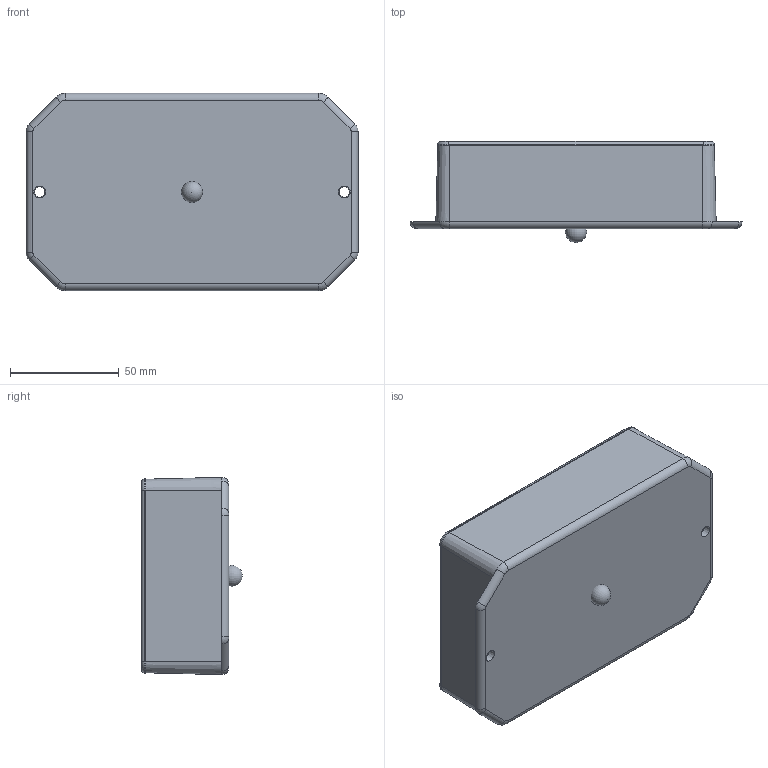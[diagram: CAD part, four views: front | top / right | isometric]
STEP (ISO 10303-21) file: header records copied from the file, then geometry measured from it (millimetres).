
FILE_DESCRIPTION (( 'STEP AP214' ), '1' );
FILE_NAME ('LP-55FMB_ASS''Y.STEP', '2012-05-23T12:32:20', ( 'Designer2010' ), ( '' ), 'SwSTEP 2.0', 'SolidWorks 2012', '' );
FILE_SCHEMA (( 'AUTOMOTIVE_DESIGN' ));
Length unit declared in the file: inch
Products named in the file (5): LP-55-PCB; SCREWS-LP-BR_SCREWS-LP-BR; LP-55C_LP-55C; LP-55B_LP-55BFMB; LP-55FMB_ASS''Y
Assembly tree (7 placements, depth 2):
  LP-55FMB_ASS''Y
    LP-55B_LP-55BFMB
    LP-55C_LP-55C
    SCREWS-LP-BR_SCREWS-LP-BR  x4
    LP-55-PCB
Bounding box: 152.55 x 46.38 x 90.67 mm (x, y, z)
Volume: 112934.4 mm3; surface area: 106274.1 mm2
Topology: 7 solids, 7 shells, 351 faces, 894 edges, 585 vertices
Faces by surface type: plane 167, cylinder 88, cone 54, torus 21, bspline 16, sphere 5
Full cylindrical faces by diameter (mm): 1.549 x36, 2.921 x4, 3.175 x4, 6.096 x4
Entity records: 7248 total; most frequent: CARTESIAN_POINT 2214, DIRECTION 1060, ORIENTED_EDGE 908, EDGE_CURVE 454, AXIS2_PLACEMENT_3D 428, VERTEX_POINT 318, EDGE_LOOP 292, FACE_OUTER_BOUND 222
